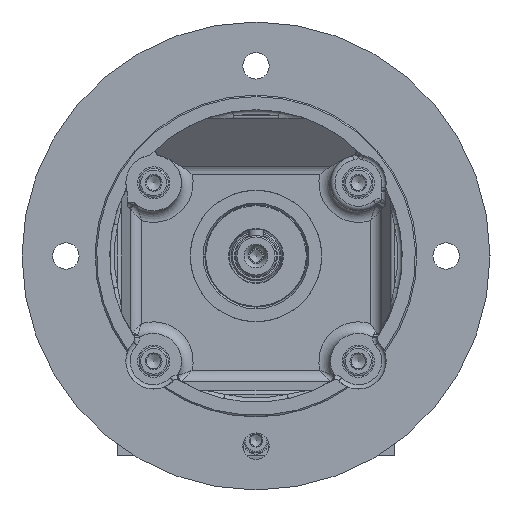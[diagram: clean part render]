
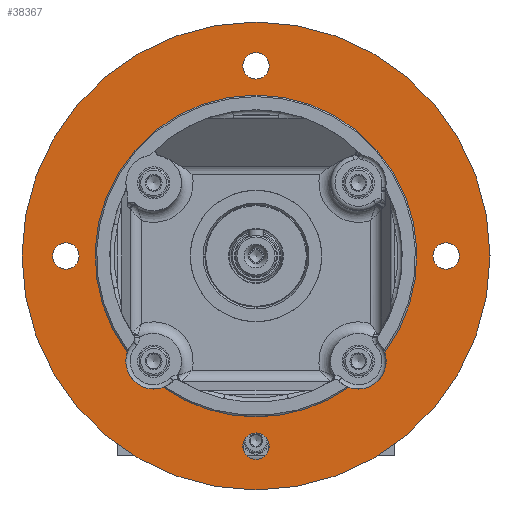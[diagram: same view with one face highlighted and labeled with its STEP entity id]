
A CAD part, front view. The second image highlights one B-rep face of the part: STEP entity #38367.
In plain terms, the highlighted planar face has unit normal (0, -1, 0) as drawn and (1, 0, 0) by its records, which use the part's own axes.
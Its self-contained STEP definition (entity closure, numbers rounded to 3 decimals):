
#1686=FACE_BOUND('',#7250,.T.);
#1687=FACE_BOUND('',#7251,.T.);
#1688=FACE_BOUND('',#7252,.T.);
#1689=FACE_BOUND('',#7253,.T.);
#1690=FACE_BOUND('',#7254,.T.);
#2544=PLANE('',#42937);
#4719=FACE_OUTER_BOUND('',#7249,.T.);
#7249=EDGE_LOOP('',(#32961));
#7250=EDGE_LOOP('',(#32962));
#7251=EDGE_LOOP('',(#32963));
#7252=EDGE_LOOP('',(#32964));
#7253=EDGE_LOOP('',(#32965,#32966,#32967,#32968));
#7254=EDGE_LOOP('',(#32969));
#14609=CIRCLE('',#42672,55.);
#14617=CIRCLE('',#42691,9.5);
#14625=CIRCLE('',#42702,9.5);
#14653=CIRCLE('',#42740,55.);
#14676=CIRCLE('',#42796,4.5);
#14678=CIRCLE('',#42799,4.5);
#14680=CIRCLE('',#42802,4.5);
#14682=CIRCLE('',#42805,4.5);
#14758=CIRCLE('',#42938,80.);
#18125=VERTEX_POINT('',#87352);
#18127=VERTEX_POINT('',#87355);
#18151=VERTEX_POINT('',#87462);
#18161=VERTEX_POINT('',#87597);
#18250=VERTEX_POINT('',#90276);
#18252=VERTEX_POINT('',#90282);
#18254=VERTEX_POINT('',#90288);
#18256=VERTEX_POINT('',#90294);
#18287=VERTEX_POINT('',#97227);
#23010=EDGE_CURVE('',#18125,#18127,#14609,.T.);
#23036=EDGE_CURVE('',#18151,#18125,#14617,.T.);
#23050=EDGE_CURVE('',#18127,#18161,#14625,.T.);
#23093=EDGE_CURVE('',#18161,#18151,#14653,.T.);
#23188=EDGE_CURVE('',#18250,#18250,#14676,.T.);
#23191=EDGE_CURVE('',#18252,#18252,#14678,.T.);
#23194=EDGE_CURVE('',#18254,#18254,#14680,.T.);
#23197=EDGE_CURVE('',#18256,#18256,#14682,.T.);
#23318=EDGE_CURVE('',#18287,#18287,#14758,.T.);
#32961=ORIENTED_EDGE('',*,*,#23318,.T.);
#32962=ORIENTED_EDGE('',*,*,#23191,.F.);
#32963=ORIENTED_EDGE('',*,*,#23194,.F.);
#32964=ORIENTED_EDGE('',*,*,#23197,.F.);
#32965=ORIENTED_EDGE('',*,*,#23093,.F.);
#32966=ORIENTED_EDGE('',*,*,#23050,.F.);
#32967=ORIENTED_EDGE('',*,*,#23010,.F.);
#32968=ORIENTED_EDGE('',*,*,#23036,.F.);
#32969=ORIENTED_EDGE('',*,*,#23188,.F.);
#38367=ADVANCED_FACE('',(#4719,#1686,#1687,#1688,#1689,#1690),#2544,.T.);
#42672=AXIS2_PLACEMENT_3D('',#87356,#52296,#52297);
#42691=AXIS2_PLACEMENT_3D('',#87464,#52343,#52344);
#42702=AXIS2_PLACEMENT_3D('',#87598,#52367,#52368);
#42740=AXIS2_PLACEMENT_3D('',#87760,#52452,#52453);
#42796=AXIS2_PLACEMENT_3D('',#90278,#52579,#52580);
#42799=AXIS2_PLACEMENT_3D('',#90284,#52586,#52587);
#42802=AXIS2_PLACEMENT_3D('',#90290,#52593,#52594);
#42805=AXIS2_PLACEMENT_3D('',#90296,#52600,#52601);
#42937=AXIS2_PLACEMENT_3D('',#97226,#52874,#52875);
#42938=AXIS2_PLACEMENT_3D('',#97228,#52876,#52877);
#52296=DIRECTION('center_axis',(1.,0.,0.));
#52297=DIRECTION('ref_axis',(0.,-1.,0.));
#52343=DIRECTION('center_axis',(1.,0.,0.));
#52344=DIRECTION('ref_axis',(0.,0.,1.));
#52367=DIRECTION('center_axis',(1.,0.,0.));
#52368=DIRECTION('ref_axis',(0.,0.,1.));
#52452=DIRECTION('center_axis',(1.,0.,0.));
#52453=DIRECTION('ref_axis',(0.,-1.,0.));
#52579=DIRECTION('center_axis',(1.,0.,0.));
#52580=DIRECTION('ref_axis',(0.,0.,-1.));
#52586=DIRECTION('center_axis',(1.,0.,0.));
#52587=DIRECTION('ref_axis',(0.,0.,-1.));
#52593=DIRECTION('center_axis',(1.,0.,0.));
#52594=DIRECTION('ref_axis',(0.,0.,-1.));
#52600=DIRECTION('center_axis',(1.,0.,0.));
#52601=DIRECTION('ref_axis',(0.,0.,-1.));
#52874=DIRECTION('center_axis',(1.,0.,0.));
#52875=DIRECTION('ref_axis',(0.,1.,0.));
#52876=DIRECTION('center_axis',(1.,0.,0.));
#52877=DIRECTION('ref_axis',(0.,-1.,0.));
#87352=CARTESIAN_POINT('',(174.465,-14.6,-46.031));
#87355=CARTESIAN_POINT('',(174.465,-14.6,41.988));
#87356=CARTESIAN_POINT('Origin',(174.465,18.387,-2.021));
#87462=CARTESIAN_POINT('',(174.465,-26.534,-33.756));
#87464=CARTESIAN_POINT('Origin',(174.465,-17.613,-37.021));
#87597=CARTESIAN_POINT('',(174.465,-26.534,29.713));
#87598=CARTESIAN_POINT('Origin',(174.465,-17.613,32.979));
#87760=CARTESIAN_POINT('Origin',(174.465,18.387,-2.021));
#90276=CARTESIAN_POINT('',(174.465,83.387,2.479));
#90278=CARTESIAN_POINT('Origin',(174.465,83.387,-2.021));
#90282=CARTESIAN_POINT('',(174.465,18.387,-62.521));
#90284=CARTESIAN_POINT('Origin',(174.465,18.387,-67.021));
#90288=CARTESIAN_POINT('',(174.465,-46.613,2.479));
#90290=CARTESIAN_POINT('Origin',(174.465,-46.613,-2.021));
#90294=CARTESIAN_POINT('',(174.465,18.387,67.479));
#90296=CARTESIAN_POINT('Origin',(174.465,18.387,62.979));
#97226=CARTESIAN_POINT('Origin',(174.465,-4.113,-2.021));
#97227=CARTESIAN_POINT('',(174.465,98.387,-2.021));
#97228=CARTESIAN_POINT('Origin',(174.465,18.387,-2.021));
